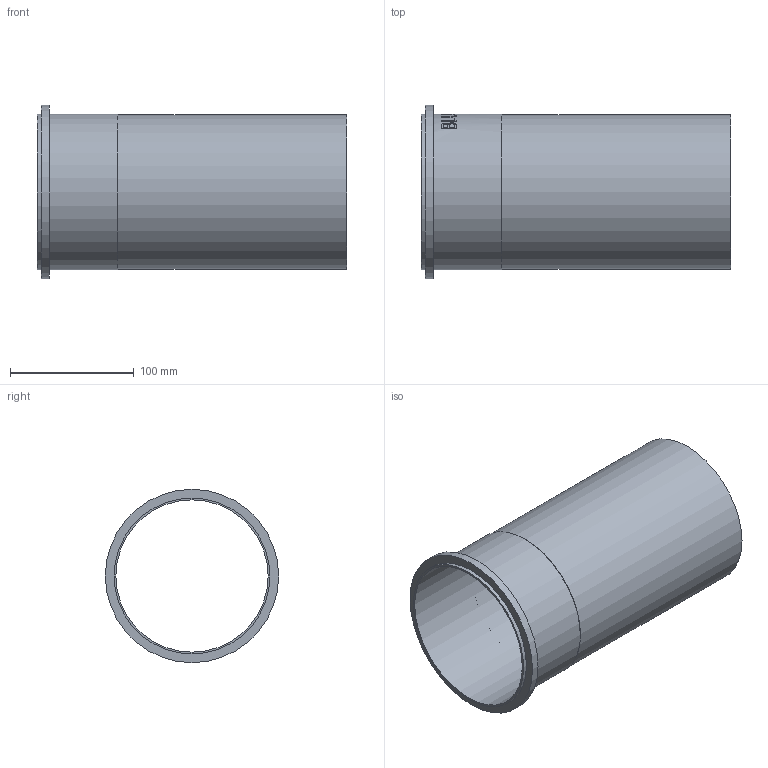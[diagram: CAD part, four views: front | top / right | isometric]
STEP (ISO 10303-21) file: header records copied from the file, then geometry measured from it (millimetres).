
FILE_DESCRIPTION((''),'2;1');
FILE_NAME('I:\WATTS\3D_CAD\3D_CAD_Models\Blucher_Drains\P_StraightPipe\WebsiteFiles\3D\STEP\P5-0.8-316.stp','2009-12-02T14:24:59',('menesek'),(''),'Autodesk Inventor 2010','Autodesk Inventor 2010','');
FILE_SCHEMA(('AUTOMOTIVE_DESIGN { 1 0 10303 214 1 1 1 1 }'));
Length unit declared in the file: inch
Products named in the file (1): P5-0.8-316
Bounding box: 250 x 139.95 x 139.95 mm (x, y, z)
Volume: 130374.3 mm3; surface area: 202328.8 mm2
Topology: 1 solids, 1 shells, 109 faces, 285 edges, 190 vertices
Faces by surface type: plane 59, bspline 34, cylinder 16
Full cylindrical faces by diameter (mm): 122.936 x1, 124.968 x1, 125.984 x2, 139.954 x1
Entity records: 13939 total; most frequent: CARTESIAN_POINT 11561, ORIENTED_EDGE 548, DIRECTION 356, EDGE_CURVE 274, VERTEX_POINT 186, EDGE_LOOP 128, AXIS2_PLACEMENT_3D 120, VECTOR 116
